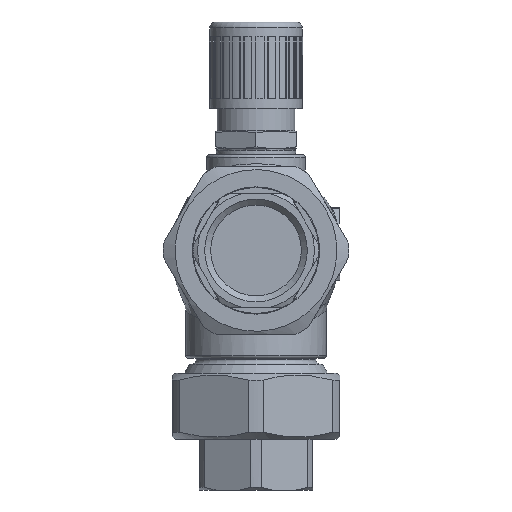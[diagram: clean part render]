
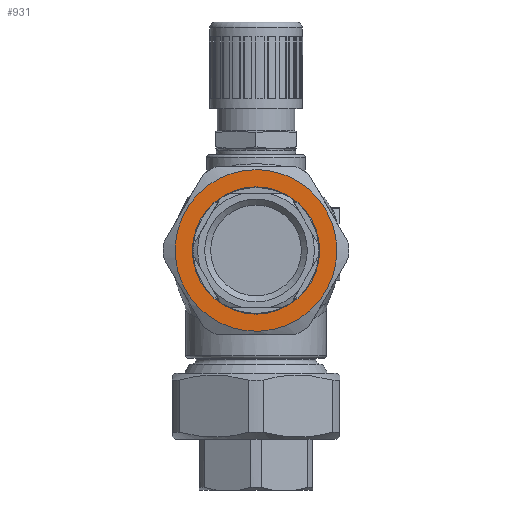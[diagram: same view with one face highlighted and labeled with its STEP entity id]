
A CAD part, left-side view. The second image highlights one B-rep face of the part: STEP entity #931.
In plain terms, the highlighted planar face has unit normal (-1, 0, 0).
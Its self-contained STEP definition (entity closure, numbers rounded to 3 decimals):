
#437=PLANE('',#6059);
#673=FACE_BOUND('',#1671,.T.);
#674=FACE_BOUND('',#1672,.T.);
#931=ADVANCED_FACE('',(#673,#674),#437,.T.);
#1671=EDGE_LOOP('',(#2798));
#1672=EDGE_LOOP('',(#2799));
#2130=CIRCLE('',#6057,21.25);
#2131=CIRCLE('',#6058,27.);
#2798=ORIENTED_EDGE('',*,*,#4673,.T.);
#2799=ORIENTED_EDGE('',*,*,#4674,.T.);
#4070=VERTEX_POINT('',#8871);
#4071=VERTEX_POINT('',#8873);
#4673=EDGE_CURVE('',#4070,#4070,#2130,.T.);
#4674=EDGE_CURVE('',#4071,#4071,#2131,.T.);
#6057=AXIS2_PLACEMENT_3D('',#8870,#7031,#7032);
#6058=AXIS2_PLACEMENT_3D('',#8872,#7033,#7034);
#6059=AXIS2_PLACEMENT_3D('',#8874,#7035,#7036);
#7031=DIRECTION('',(1.,0.,0.));
#7032=DIRECTION('',(0.,1.,0.));
#7033=DIRECTION('',(-1.,0.,0.));
#7034=DIRECTION('',(0.,-1.,0.));
#7035=DIRECTION('',(-1.,0.,0.));
#7036=DIRECTION('',(0.,-1.,0.));
#8870=CARTESIAN_POINT('',(37.,0.,100.));
#8871=CARTESIAN_POINT('',(37.,21.25,100.));
#8872=CARTESIAN_POINT('',(37.,0.,100.));
#8873=CARTESIAN_POINT('',(37.,-27.,100.));
#8874=CARTESIAN_POINT('',(37.,0.,100.));
